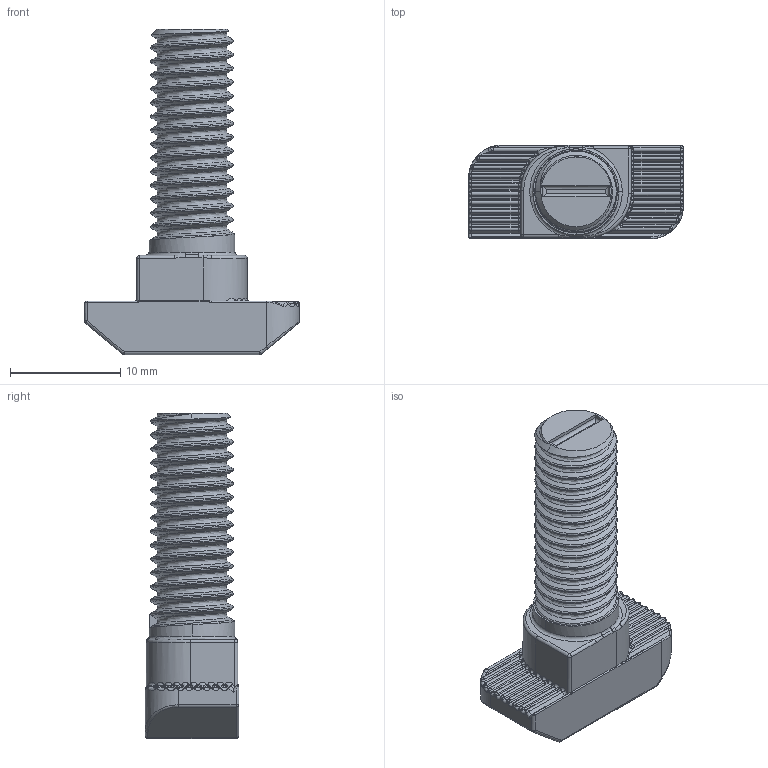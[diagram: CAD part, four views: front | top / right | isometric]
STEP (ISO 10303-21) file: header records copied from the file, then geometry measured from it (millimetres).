
FILE_DESCRIPTION (( 'STEP AP203' ), '1' );
FILE_NAME ('5031.STEP', '2016-01-21T10:26:26', ( '' ), ( '' ), 'SwSTEP 2.0', 'SolidWorks 2014', '' );
FILE_SCHEMA (( 'CONFIG_CONTROL_DESIGN' ));
Length unit declared in the file: millimetre
Products named in the file (1): 5031
Bounding box: 19.5 x 8.5 x 29.5 mm (x, y, z)
Volume: 1774.1 mm3; surface area: 1308.8 mm2
Topology: 1 solids, 1 shells, 377 faces, 910 edges, 489 vertices
Faces by surface type: cylinder 139, bspline 135, plane 62, torus 29, sphere 9, cone 3
Entity records: 17949 total; most frequent: CARTESIAN_POINT 10528, ORIENTED_EDGE 1726, DIRECTION 1354, EDGE_CURVE 863, AXIS2_PLACEMENT_3D 541, VERTEX_POINT 489, EDGE_LOOP 378, ADVANCED_FACE 377
